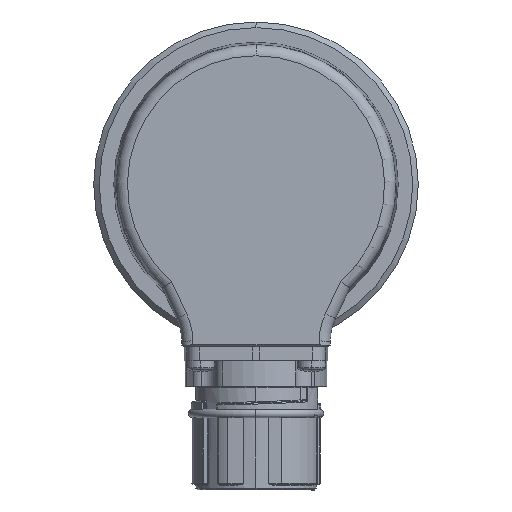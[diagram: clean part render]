
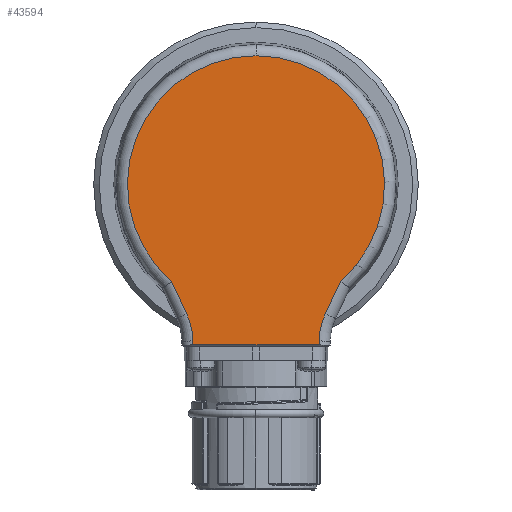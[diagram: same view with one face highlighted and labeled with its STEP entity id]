
A CAD part, left-side view. The second image highlights one B-rep face of the part: STEP entity #43594.
In plain terms, the highlighted planar face has unit normal (-1, 0, 0).
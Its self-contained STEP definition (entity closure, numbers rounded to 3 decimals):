
#417 = ORIENTED_EDGE ( 'NONE', *, *, #36837, .T. ) ;
#724 = LINE ( 'NONE', #33268, #36593 ) ;
#756 = CIRCLE ( 'NONE', #12249, 12. ) ;
#1411 = CARTESIAN_POINT ( 'NONE',  ( -21., 11.255, -28.695 ) ) ;
#2204 = ORIENTED_EDGE ( 'NONE', *, *, #36557, .T. ) ;
#3048 = VERTEX_POINT ( 'NONE', #29837 ) ;
#3862 = DIRECTION ( 'NONE',  ( 0., -0.017, 1. ) ) ;
#5503 = CARTESIAN_POINT ( 'NONE',  ( -21., 0., 22.972 ) ) ;
#5671 = ORIENTED_EDGE ( 'NONE', *, *, #33893, .T. ) ;
#5834 = LINE ( 'NONE', #32416, #23192 ) ;
#5982 = VERTEX_POINT ( 'NONE', #32072 ) ;
#6328 = CARTESIAN_POINT ( 'NONE',  ( -21., 12.39, -23.112 ) ) ;
#6422 = DIRECTION ( 'NONE',  ( 0., 0., 1. ) ) ;
#6977 = CARTESIAN_POINT ( 'NONE',  ( -21., 15.091, -17.32 ) ) ;
#7375 = LINE ( 'NONE', #35124, #43013 ) ;
#7487 = FACE_OUTER_BOUND ( 'NONE', #37210, .T. ) ;
#7862 = VERTEX_POINT ( 'NONE', #22812 ) ;
#8675 = ORIENTED_EDGE ( 'NONE', *, *, #35101, .T. ) ;
#8925 = CIRCLE ( 'NONE', #27490, 12. ) ;
#9488 = PLANE ( 'NONE',  #13796 ) ;
#9696 = CARTESIAN_POINT ( 'NONE',  ( -21., -11.25, -28.695 ) ) ;
#9985 = VERTEX_POINT ( 'NONE', #6977 ) ;
#10052 = LINE ( 'NONE', #6328, #36546 ) ;
#10061 = VERTEX_POINT ( 'NONE', #5503 ) ;
#10747 = ORIENTED_EDGE ( 'NONE', *, *, #33292, .T. ) ;
#12249 = AXIS2_PLACEMENT_3D ( 'NONE', #33860, #13181, #37378 ) ;
#12577 = VERTEX_POINT ( 'NONE', #20848 ) ;
#12748 = DIRECTION ( 'NONE',  ( 0., -0.423, 0.906 ) ) ;
#13181 = DIRECTION ( 'NONE',  ( 1., 0., 0. ) ) ;
#13639 = DIRECTION ( 'NONE',  ( 1., 0., 0. ) ) ;
#13796 = AXIS2_PLACEMENT_3D ( 'NONE', #30365, #27200, #6422 ) ;
#14541 = ORIENTED_EDGE ( 'NONE', *, *, #27810, .T. ) ;
#15123 = DIRECTION ( 'NONE',  ( -1., 0., 0. ) ) ;
#15926 = CIRCLE ( 'NONE', #23871, 22.972 ) ;
#18556 = VERTEX_POINT ( 'NONE', #24032 ) ;
#19001 = VERTEX_POINT ( 'NONE', #43985 ) ;
#19047 = CARTESIAN_POINT ( 'NONE',  ( -21., 0., 0. ) ) ;
#20848 = CARTESIAN_POINT ( 'NONE',  ( -21., -12.39, -23.112 ) ) ;
#22120 = DIRECTION ( 'NONE',  ( 0., -0.017, -1. ) ) ;
#22498 = DIRECTION ( 'NONE',  ( 0., 0., 1. ) ) ;
#22812 = CARTESIAN_POINT ( 'NONE',  ( -21., 12.39, -23.112 ) ) ;
#23192 = VECTOR ( 'NONE', #22120, 1000. ) ;
#23871 = AXIS2_PLACEMENT_3D ( 'NONE', #19047, #43133, #22498 ) ;
#24032 = CARTESIAN_POINT ( 'NONE',  ( -21., 11.268, -27.974 ) ) ;
#25306 = VECTOR ( 'NONE', #33869, 1000. ) ;
#27200 = DIRECTION ( 'NONE',  ( 1., 0., 0. ) ) ;
#27490 = AXIS2_PLACEMENT_3D ( 'NONE', #34342, #13639, #37830 ) ;
#27517 = LINE ( 'NONE', #9696, #25306 ) ;
#27810 = EDGE_CURVE ( 'NONE', #10061, #9985, #15926, .T. ) ;
#29837 = CARTESIAN_POINT ( 'NONE',  ( -21., -11.268, -27.974 ) ) ;
#30082 = CIRCLE ( 'NONE', #43256, 22.972 ) ;
#30365 = CARTESIAN_POINT ( 'NONE',  ( -21., 0., 0. ) ) ;
#32072 = CARTESIAN_POINT ( 'NONE',  ( -21., -11.255, -28.695 ) ) ;
#32410 = VERTEX_POINT ( 'NONE', #1411 ) ;
#32416 = CARTESIAN_POINT ( 'NONE',  ( -21., 11.752, -0.205 ) ) ;
#33268 = CARTESIAN_POINT ( 'NONE',  ( -21., -14.953, -17.615 ) ) ;
#33292 = EDGE_CURVE ( 'NONE', #18556, #32410, #5834, .T. ) ;
#33860 = CARTESIAN_POINT ( 'NONE',  ( -21., -23.266, -28.183 ) ) ;
#33869 = DIRECTION ( 'NONE',  ( 0., -1., 0. ) ) ;
#33893 = EDGE_CURVE ( 'NONE', #32410, #5982, #27517, .T. ) ;
#34342 = CARTESIAN_POINT ( 'NONE',  ( -21., 23.266, -28.183 ) ) ;
#34844 = EDGE_CURVE ( 'NONE', #5982, #3048, #7375, .T. ) ;
#35101 = EDGE_CURVE ( 'NONE', #3048, #12577, #756, .T. ) ;
#35124 = CARTESIAN_POINT ( 'NONE',  ( -21., -11.752, -0.205 ) ) ;
#35828 = CARTESIAN_POINT ( 'NONE',  ( -21., 0., 0. ) ) ;
#36546 = VECTOR ( 'NONE', #44205, 1000. ) ;
#36557 = EDGE_CURVE ( 'NONE', #12577, #19001, #724, .T. ) ;
#36593 = VECTOR ( 'NONE', #12748, 1000. ) ;
#36837 = EDGE_CURVE ( 'NONE', #19001, #10061, #30082, .T. ) ;
#37210 = EDGE_LOOP ( 'NONE', ( #10747, #5671, #41858, #8675, #2204, #417, #14541, #37699, #44173 ) ) ;
#37378 = DIRECTION ( 'NONE',  ( 0., 0., 1. ) ) ;
#37699 = ORIENTED_EDGE ( 'NONE', *, *, #37955, .T. ) ;
#37830 = DIRECTION ( 'NONE',  ( 0., 0., 1. ) ) ;
#37955 = EDGE_CURVE ( 'NONE', #9985, #7862, #10052, .T. ) ;
#38014 = EDGE_CURVE ( 'NONE', #7862, #18556, #8925, .T. ) ;
#39272 = DIRECTION ( 'NONE',  ( 0., 0., 1. ) ) ;
#41858 = ORIENTED_EDGE ( 'NONE', *, *, #34844, .T. ) ;
#43013 = VECTOR ( 'NONE', #3862, 1000. ) ;
#43133 = DIRECTION ( 'NONE',  ( -1., 0., 0. ) ) ;
#43256 = AXIS2_PLACEMENT_3D ( 'NONE', #35828, #15123, #39272 ) ;
#43594 = ADVANCED_FACE ( 'NONE', ( #7487 ), #9488, .F. ) ;
#43985 = CARTESIAN_POINT ( 'NONE',  ( -21., -15.091, -17.32 ) ) ;
#44173 = ORIENTED_EDGE ( 'NONE', *, *, #38014, .T. ) ;
#44205 = DIRECTION ( 'NONE',  ( 0., -0.423, -0.906 ) ) ;
